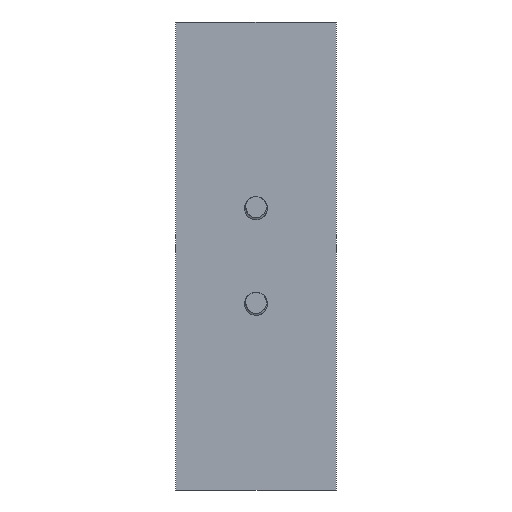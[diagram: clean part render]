
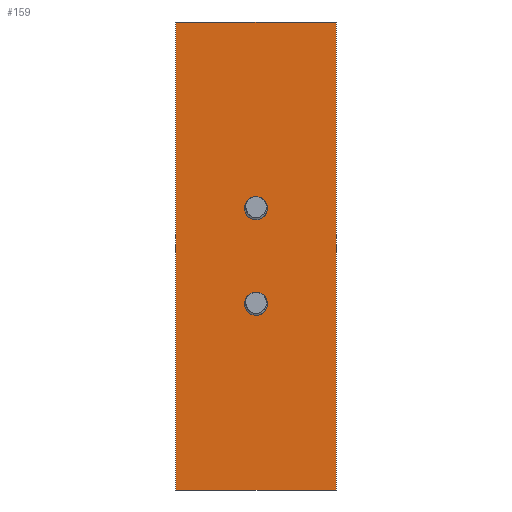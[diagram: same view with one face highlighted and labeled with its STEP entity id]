
A CAD part, left-side view. The second image highlights one B-rep face of the part: STEP entity #159.
In plain terms, the highlighted planar face has unit normal (-1, 0, 0).
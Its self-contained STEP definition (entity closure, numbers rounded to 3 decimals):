
#159=ADVANCED_FACE('',(#211,#212,#295),#191,.F.);
#191=PLANE('',#876);
#211=FACE_BOUND('',#349,.T.);
#212=FACE_BOUND('',#350,.T.);
#257=CIRCLE('',#874,2.594);
#258=CIRCLE('',#875,2.594);
#295=FACE_OUTER_BOUND('',#351,.T.);
#349=EDGE_LOOP('',(#523));
#350=EDGE_LOOP('',(#524));
#351=EDGE_LOOP('',(#525,#526,#527,#528));
#523=ORIENTED_EDGE('',*,*,#703,.F.);
#524=ORIENTED_EDGE('',*,*,#704,.T.);
#525=ORIENTED_EDGE('',*,*,#705,.F.);
#526=ORIENTED_EDGE('',*,*,#706,.T.);
#527=ORIENTED_EDGE('',*,*,#707,.T.);
#528=ORIENTED_EDGE('',*,*,#708,.F.);
#611=VERTEX_POINT('',#15170);
#612=VERTEX_POINT('',#15172);
#613=VERTEX_POINT('',#15174);
#614=VERTEX_POINT('',#15175);
#615=VERTEX_POINT('',#15177);
#616=VERTEX_POINT('',#15179);
#703=EDGE_CURVE('',#611,#611,#257,.T.);
#704=EDGE_CURVE('',#612,#612,#258,.T.);
#705=EDGE_CURVE('',#613,#614,#761,.T.);
#706=EDGE_CURVE('',#613,#615,#762,.T.);
#707=EDGE_CURVE('',#615,#616,#763,.T.);
#708=EDGE_CURVE('',#614,#616,#764,.T.);
#761=LINE('',#15173,#815);
#762=LINE('',#15176,#816);
#763=LINE('',#15178,#817);
#764=LINE('',#15180,#818);
#815=VECTOR('',#1026,1.);
#816=VECTOR('',#1027,1.);
#817=VECTOR('',#1028,1.);
#818=VECTOR('',#1029,1.);
#874=AXIS2_PLACEMENT_3D('',#15169,#1022,#1023);
#875=AXIS2_PLACEMENT_3D('',#15171,#1024,#1025);
#876=AXIS2_PLACEMENT_3D('',#15181,#1030,#1031);
#1022=DIRECTION('',(-1.,0.,0.));
#1023=DIRECTION('',(0.,0.,1.));
#1024=DIRECTION('',(1.,0.,0.));
#1025=DIRECTION('',(0.,0.,-1.));
#1026=DIRECTION('',(0.,-1.,0.));
#1027=DIRECTION('',(0.,0.,-1.));
#1028=DIRECTION('',(0.,-1.,0.));
#1029=DIRECTION('',(0.,0.,-1.));
#1030=DIRECTION('',(1.,0.,0.));
#1031=DIRECTION('',(0.,0.,-1.));
#15169=CARTESIAN_POINT('',(3.674,-13.494,141.));
#15170=CARTESIAN_POINT('',(3.674,-13.494,143.594));
#15171=CARTESIAN_POINT('',(3.674,-13.494,116.));
#15172=CARTESIAN_POINT('',(3.674,-13.494,113.406));
#15173=CARTESIAN_POINT('',(3.674,36.506,189.621));
#15174=CARTESIAN_POINT('',(3.674,7.506,189.621));
#15175=CARTESIAN_POINT('',(3.674,-34.494,189.621));
#15176=CARTESIAN_POINT('',(3.674,7.506,74.929));
#15177=CARTESIAN_POINT('',(3.674,7.506,67.379));
#15178=CARTESIAN_POINT('',(3.674,36.506,67.379));
#15179=CARTESIAN_POINT('',(3.674,-34.494,67.379));
#15180=CARTESIAN_POINT('',(3.674,-34.494,74.929));
#15181=CARTESIAN_POINT('',(3.674,-66.998,74.929));
